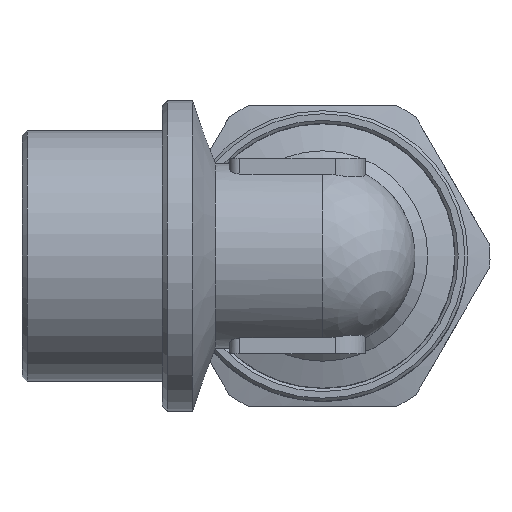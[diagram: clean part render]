
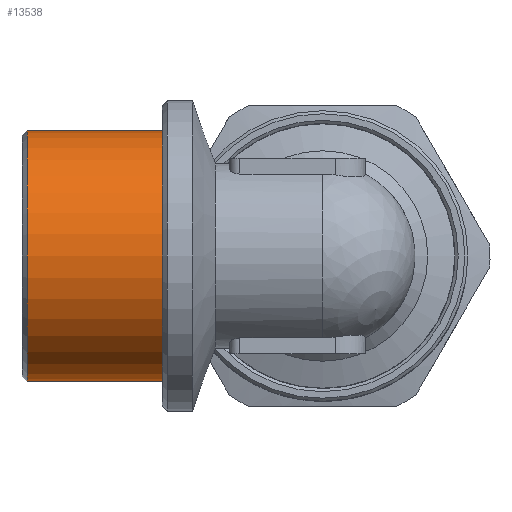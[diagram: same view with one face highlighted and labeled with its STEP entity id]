
A CAD part, left-side view. The second image highlights one B-rep face of the part: STEP entity #13538.
In plain terms, the highlighted cylindrical face has radius 12.5 mm (diameter 25 mm), a full revolution.
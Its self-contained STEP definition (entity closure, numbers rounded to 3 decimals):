
#1585=CYLINDRICAL_SURFACE('',#14361,12.5);
#1806=FACE_OUTER_BOUND('',#2576,.T.);
#2576=EDGE_LOOP('',(#9962,#9963,#9964,#9965,#9966,#9967));
#3506=LINE('',#21122,#4473);
#4473=VECTOR('',#15567,12.5);
#5234=CIRCLE('',#14362,12.5);
#5235=CIRCLE('',#14363,12.5);
#5236=CIRCLE('',#14364,12.5);
#5237=CIRCLE('',#14365,12.5);
#5825=VERTEX_POINT('',#21117);
#5826=VERTEX_POINT('',#21118);
#5827=VERTEX_POINT('',#21121);
#5828=VERTEX_POINT('',#21123);
#7409=EDGE_CURVE('',#5825,#5826,#5234,.T.);
#7410=EDGE_CURVE('',#5826,#5825,#5235,.T.);
#7411=EDGE_CURVE('',#5826,#5827,#3506,.T.);
#7412=EDGE_CURVE('',#5827,#5828,#5236,.T.);
#7413=EDGE_CURVE('',#5828,#5827,#5237,.T.);
#9962=ORIENTED_EDGE('',*,*,#7409,.F.);
#9963=ORIENTED_EDGE('',*,*,#7410,.F.);
#9964=ORIENTED_EDGE('',*,*,#7411,.T.);
#9965=ORIENTED_EDGE('',*,*,#7412,.T.);
#9966=ORIENTED_EDGE('',*,*,#7413,.T.);
#9967=ORIENTED_EDGE('',*,*,#7411,.F.);
#13538=ADVANCED_FACE('',(#1806),#1585,.T.);
#14361=AXIS2_PLACEMENT_3D('',#21116,#15561,#15562);
#14362=AXIS2_PLACEMENT_3D('',#21119,#15563,#15564);
#14363=AXIS2_PLACEMENT_3D('',#21120,#15565,#15566);
#14364=AXIS2_PLACEMENT_3D('',#21124,#15568,#15569);
#14365=AXIS2_PLACEMENT_3D('',#21125,#15570,#15571);
#15561=DIRECTION('center_axis',(0.,1.,0.));
#15562=DIRECTION('ref_axis',(-1.,0.,0.));
#15563=DIRECTION('center_axis',(0.,1.,0.));
#15564=DIRECTION('ref_axis',(1.,0.,0.));
#15565=DIRECTION('center_axis',(0.,1.,0.));
#15566=DIRECTION('ref_axis',(1.,0.,0.));
#15567=DIRECTION('',(0.,-1.,0.));
#15568=DIRECTION('center_axis',(0.,1.,0.));
#15569=DIRECTION('ref_axis',(1.,0.,0.));
#15570=DIRECTION('center_axis',(0.,1.,0.));
#15571=DIRECTION('ref_axis',(1.,0.,0.));
#21116=CARTESIAN_POINT('Origin',(0.,22.75,0.));
#21117=CARTESIAN_POINT('',(-12.5,29.5,0.));
#21118=CARTESIAN_POINT('',(12.5,29.5,0.));
#21119=CARTESIAN_POINT('Origin',(0.,29.5,0.));
#21120=CARTESIAN_POINT('Origin',(0.,29.5,0.));
#21121=CARTESIAN_POINT('',(12.5,16.,0.));
#21122=CARTESIAN_POINT('',(12.5,22.75,0.));
#21123=CARTESIAN_POINT('',(-12.5,16.,0.));
#21124=CARTESIAN_POINT('Origin',(0.,16.,0.));
#21125=CARTESIAN_POINT('Origin',(0.,16.,0.));
